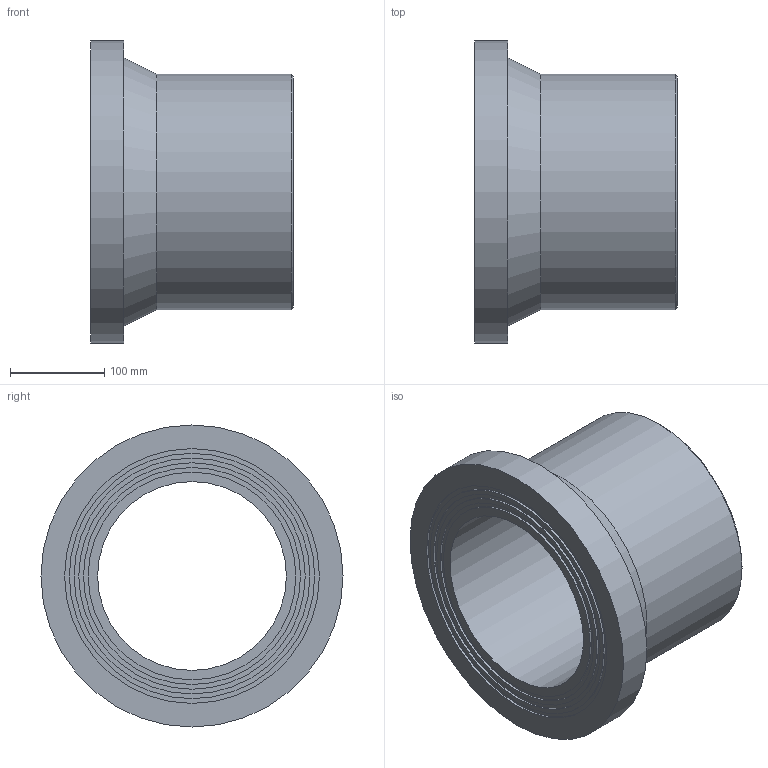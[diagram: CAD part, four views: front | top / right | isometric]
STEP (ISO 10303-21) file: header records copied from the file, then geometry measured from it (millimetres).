
FILE_DESCRIPTION(/* description */ ('Stub Flange 250'),/* implementation_level */ '2;1');
FILE_NAME(/* name */ 'C:\Dropbox\KIMPROJECTS-Inventor\99-16-3568-Processing\ElectroFusion Fittings\31.03.19\490207\490207250.ipt.stp',/* time_stamp */ '2019-03-31T18:57:52+03:00',/* author */ ('Кирилл'),/* organization */ (''),/* preprocessor_version */ 'ST-DEVELOPER v15.6',/* originating_system */ 'Autodesk Inventor 2015',/* authorisation */ '');
FILE_SCHEMA (('AUTOMOTIVE_DESIGN { 1 0 10303 214 3 1 1 }'));
Length unit declared in the file: millimetre
Products named in the file (1): 490207250
Bounding box: 215 x 320 x 320 mm (x, y, z)
Volume: 5116623.6 mm3; surface area: 410740.1 mm2
Topology: 1 solids, 1 shells, 20 faces, 31 edges, 20 vertices
Faces by surface type: cylinder 9, plane 9, cone 2
Full cylindrical faces by diameter (mm): 200 x1, 220 x1, 230 x1, 240 x1, 250 x2, 260 x1, 270 x1, 320 x1
Entity records: 432 total; most frequent: DIRECTION 82, CARTESIAN_POINT 61, AXIS2_PLACEMENT_3D 41, EDGE_LOOP 40, ORIENTED_EDGE 40, FACE_BOUND 20, FACE_OUTER_BOUND 20, CIRCLE 20
